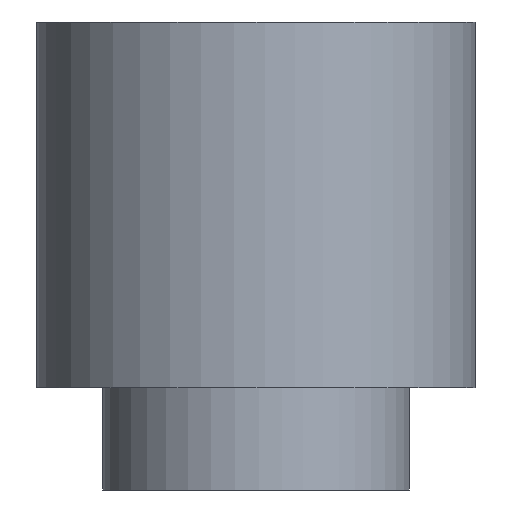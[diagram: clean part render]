
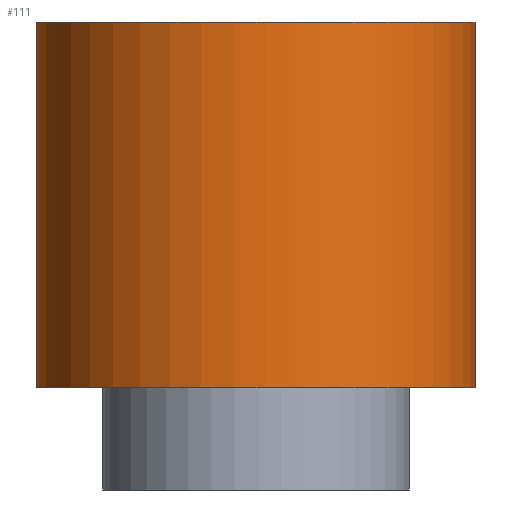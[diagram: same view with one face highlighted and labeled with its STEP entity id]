
A CAD part, front view. The second image highlights one B-rep face of the part: STEP entity #111.
In plain terms, the highlighted free-form (B-spline) face has degree [2, 1] with [7, 2] control points.
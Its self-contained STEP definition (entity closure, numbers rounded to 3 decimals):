
#92 = EDGE_CURVE('',#93,#93,#95,.T.);
#93 = VERTEX_POINT('',#94);
#94 = CARTESIAN_POINT('',(-3.,0.,0.));
#95 = ( BOUNDED_CURVE() B_SPLINE_CURVE(2,(#96,#97,#98,#99,#100,#101,#102
),.UNSPECIFIED.,.T.,.F.) B_SPLINE_CURVE_WITH_KNOTS((1,2,2,2,2,1),(
    -2.094,0.,2.094,4.189,6.283,
8.378),.UNSPECIFIED.) CURVE() GEOMETRIC_REPRESENTATION_ITEM() 
RATIONAL_B_SPLINE_CURVE((1.,0.5,1.,0.5,1.,0.5,1.)) REPRESENTATION_ITEM(
  '') );
#96 = CARTESIAN_POINT('',(-3.,0.,0.));
#97 = CARTESIAN_POINT('',(-3.,5.196,0.));
#98 = CARTESIAN_POINT('',(1.5,2.598,0.));
#99 = CARTESIAN_POINT('',(6.,0.,0.));
#100 = CARTESIAN_POINT('',(1.5,-2.598,0.));
#101 = CARTESIAN_POINT('',(-3.,-5.196,0.));
#102 = CARTESIAN_POINT('',(-3.,0.,0.));
#111 = ADVANCED_FACE('',(#112),#133,.T.);
#112 = FACE_BOUND('',#113,.T.);
#113 = EDGE_LOOP('',(#114,#126,#131,#132));
#114 = ORIENTED_EDGE('',*,*,#115,.T.);
#115 = EDGE_CURVE('',#116,#116,#118,.T.);
#116 = VERTEX_POINT('',#117);
#117 = CARTESIAN_POINT('',(-3.,0.,5.));
#118 = ( BOUNDED_CURVE() B_SPLINE_CURVE(2,(#119,#120,#121,#122,#123,#124
,#125),.UNSPECIFIED.,.T.,.F.) B_SPLINE_CURVE_WITH_KNOTS((1,2,2,2,2,1),(
    -2.094,0.,2.094,4.189,6.283,
8.378),.UNSPECIFIED.) CURVE() GEOMETRIC_REPRESENTATION_ITEM() 
RATIONAL_B_SPLINE_CURVE((1.,0.5,1.,0.5,1.,0.5,1.)) REPRESENTATION_ITEM(
  '') );
#119 = CARTESIAN_POINT('',(-3.,0.,5.));
#120 = CARTESIAN_POINT('',(-3.,5.196,5.));
#121 = CARTESIAN_POINT('',(1.5,2.598,5.));
#122 = CARTESIAN_POINT('',(6.,0.,5.));
#123 = CARTESIAN_POINT('',(1.5,-2.598,5.));
#124 = CARTESIAN_POINT('',(-3.,-5.196,5.));
#125 = CARTESIAN_POINT('',(-3.,0.,5.));
#126 = ORIENTED_EDGE('',*,*,#127,.F.);
#127 = EDGE_CURVE('',#93,#116,#128,.T.);
#128 = B_SPLINE_CURVE_WITH_KNOTS('',1,(#129,#130),.UNSPECIFIED.,.F.,.F.,
  (2,2),(1.4,6.4),.PIECEWISE_BEZIER_KNOTS.);
#129 = CARTESIAN_POINT('',(-3.,0.,0.));
#130 = CARTESIAN_POINT('',(-3.,0.,5.));
#131 = ORIENTED_EDGE('',*,*,#92,.F.);
#132 = ORIENTED_EDGE('',*,*,#127,.T.);
#133 = ( BOUNDED_SURFACE() B_SPLINE_SURFACE(2,1,(
    (#134,#135)
    ,(#136,#137)
    ,(#138,#139)
    ,(#140,#141)
    ,(#142,#143)
    ,(#144,#145)
,(#146,#147
    )),.UNSPECIFIED.,.T.,.F.,.F.) B_SPLINE_SURFACE_WITH_KNOTS((1,2,2,2,2
    ,1),(2,2),(-2.094,0.,2.094,4.189,
    6.283,8.378),(1.4,6.4),.UNSPECIFIED.) 
GEOMETRIC_REPRESENTATION_ITEM() RATIONAL_B_SPLINE_SURFACE((
    (1.,1.)
    ,(0.5,0.5)
    ,(1.,1.)
    ,(0.5,0.5)
    ,(1.,1.)
    ,(0.5,0.5)
,(1.,1.))) REPRESENTATION_ITEM('') SURFACE() );
#134 = CARTESIAN_POINT('',(-3.,0.,0.));
#135 = CARTESIAN_POINT('',(-3.,0.,5.));
#136 = CARTESIAN_POINT('',(-3.,-5.196,0.));
#137 = CARTESIAN_POINT('',(-3.,-5.196,5.));
#138 = CARTESIAN_POINT('',(1.5,-2.598,0.));
#139 = CARTESIAN_POINT('',(1.5,-2.598,5.));
#140 = CARTESIAN_POINT('',(6.,0.,0.));
#141 = CARTESIAN_POINT('',(6.,0.,5.));
#142 = CARTESIAN_POINT('',(1.5,2.598,0.));
#143 = CARTESIAN_POINT('',(1.5,2.598,5.));
#144 = CARTESIAN_POINT('',(-3.,5.196,0.));
#145 = CARTESIAN_POINT('',(-3.,5.196,5.));
#146 = CARTESIAN_POINT('',(-3.,0.,0.));
#147 = CARTESIAN_POINT('',(-3.,0.,5.));
